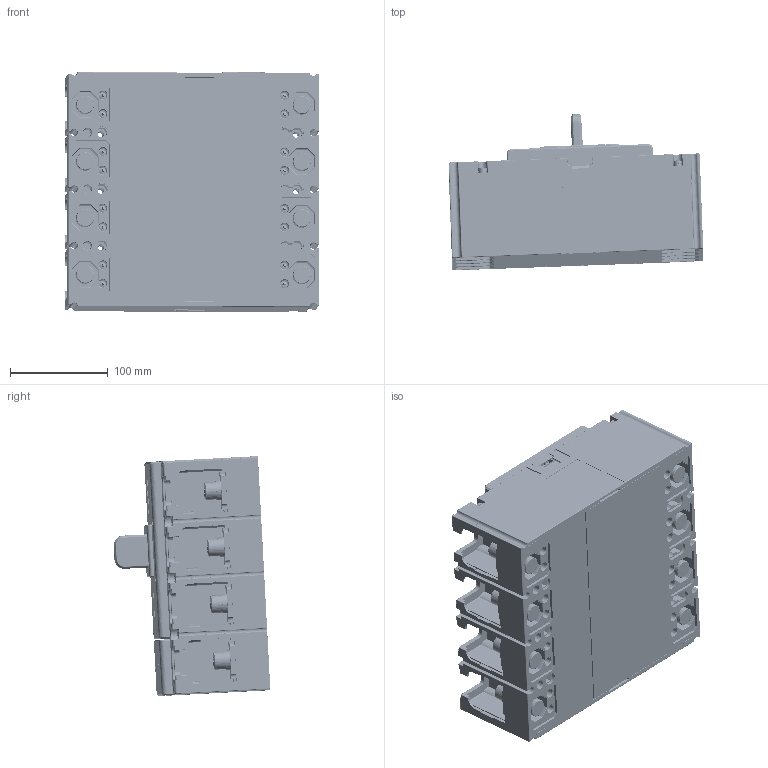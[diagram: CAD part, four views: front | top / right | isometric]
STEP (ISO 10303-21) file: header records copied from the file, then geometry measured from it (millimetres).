
FILE_DESCRIPTION((''),'2;1');
FILE_NAME('2253070200_ASM_ASM','2025-04-28T',('Administrator'),(''),'PRO/ENGINEER BY PARAMETRIC TECHNOLOGY CORPORATION, 2015440','PRO/ENGINEER BY PARAMETRIC TECHNOLOGY CORPORATION, 2015440','');
FILE_SCHEMA(('CONFIG_CONTROL_DESIGN'));
Products named in the file (61): JZ_5024046000_1; GB_T809-M5X16_1; 5024046000_ASM_1_ASM; 89400070R0_1; MANIFOLD_SOLID_BREP_122148; MANIFOLD_SOLID_BREP_122288; 8420023100_1_ASM; 5551107800_ASM_1_ASM; 5551150300_ASM_1_ASM; MANIFOLD_SOLID_BREP_154679; MANIFOLD_SOLID_BREP_154767; 85850774P02_1_ASM; MANIFOLD_SOLID_BREP_155160; MANIFOLD_SOLID_BREP_155310; 8505031000_AF0_1_ASM; MANIFOLD_SOLID_BREP_155492; MANIFOLD_SOLID_BREP_155642; 8505031000_AF1_1_ASM; MANIFOLD_SOLID_BREP_156323; MANIFOLD_SOLID_BREP_156411; 85850774P01_1_ASM; 5510025300_ASM_1_ASM; 8551044700_1; 8550088500_1; 5551107700_ASM_1_ASM; 7010100507J_GB_T823_M4X12_1; 7090300401K_GB_T93_4_1; 7090200011_GB_T97_4_4_S_1; 5850007600_ASM_1_ASM; 7010100505J_GB_T823_M4X10_1; 5850007500_ASM_1_ASM; 5295021500_ASM_1_ASM; 8742124100_1; 8742124000_1; 8315098800_1; GZ_5315081700_1; GB_T809-M3X8_1; 5315081700_ASM_1_ASM; 82822012R0_AF0_1; 8253076500_1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
Assembly tree (137 placements, depth 7):
  2253070200_ASM_ASM
    2253070200_ASM_1_ASM
      5295021500_ASM_1_ASM
        5024046000_ASM_1_ASM
          JZ_5024046000_1
          GB_T809-M5X16_1  x10
        89400070R0_1  x8
        5551150300_ASM_1_ASM
          5551107800_ASM_1_ASM  x3
            8420023100_1_ASM
              MANIFOLD_SOLID_BREP_122148
              MANIFOLD_SOLID_BREP_122288
        5510025300_ASM_1_ASM
          85850774P02_1_ASM
            MANIFOLD_SOLID_BREP_154679
            MANIFOLD_SOLID_BREP_154767
          8505031000_AF0_1_ASM
            MANIFOLD_SOLID_BREP_155160
            MANIFOLD_SOLID_BREP_155310
          8505031000_AF1_1_ASM
            MANIFOLD_SOLID_BREP_155492
            MANIFOLD_SOLID_BREP_155642
          85850774P01_1_ASM
            MANIFOLD_SOLID_BREP_156323
            MANIFOLD_SOLID_BREP_156411
        5551107700_ASM_1_ASM  x3
          8551044700_1
          8550088500_1
        5850007600_ASM_1_ASM  x16
          7010100507J_GB_T823_M4X12_1
          7090300401K_GB_T93_4_1
          7090200011_GB_T97_4_4_S_1
        5850007500_ASM_1_ASM  x3
          7010100505J_GB_T823_M4X10_1
          7090300401K_GB_T93_4_1
          7090200011_GB_T97_4_4_S_1
      8742124100_1  x4
      8742124000_1  x4
      8315098800_1
      5315081900_ASM_1_ASM
        5315081700_ASM_1_ASM
          GZ_5315081700_1
          GB_T809-M3X8_1  x9
        82822012R0_AF0_1
        8253076500_1
      5253021200_ASM_1_ASM
        8253057400_1
        8865077500_AF0_1
        8865077600_AF0_1
      8315098700_1
      5850007700_ASM_1_ASM  x9
        7010100305R01_GB_T823_M3X10_1
        7090300201_GB_T93_3_1
        GB_T97_4_3_1
      5850007400_ASM_1_ASM  x10
        GB_T823-M5X35_1
        7090300501K_GB_T93_5_1
        GB_T97_4_5_1
      58500025C0_ASM_1_ASM  x8
        GB_T70_1-M12X30_1
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Bounding box: 260.33 x 160.23 x 245.38 mm (x, y, z)
Volume: 2255988.6 mm3; surface area: 1078157.2 mm2
Topology: 203 solids, 293 shells, 10916 faces, 28530 edges, 18277 vertices
Faces by surface type: plane 6228, cylinder 3157, torus 594, cone 385, extrusion 213, sphere 205, bspline 134
Entity records: 274249 total; most frequent: CARTESIAN_POINT 62730, ORIENTED_EDGE 44540, DIRECTION 42998, EDGE_CURVE 22306, VECTOR 15770, LINE 15557, VERTEX_POINT 14434, AXIS2_PLACEMENT_3D 13614
